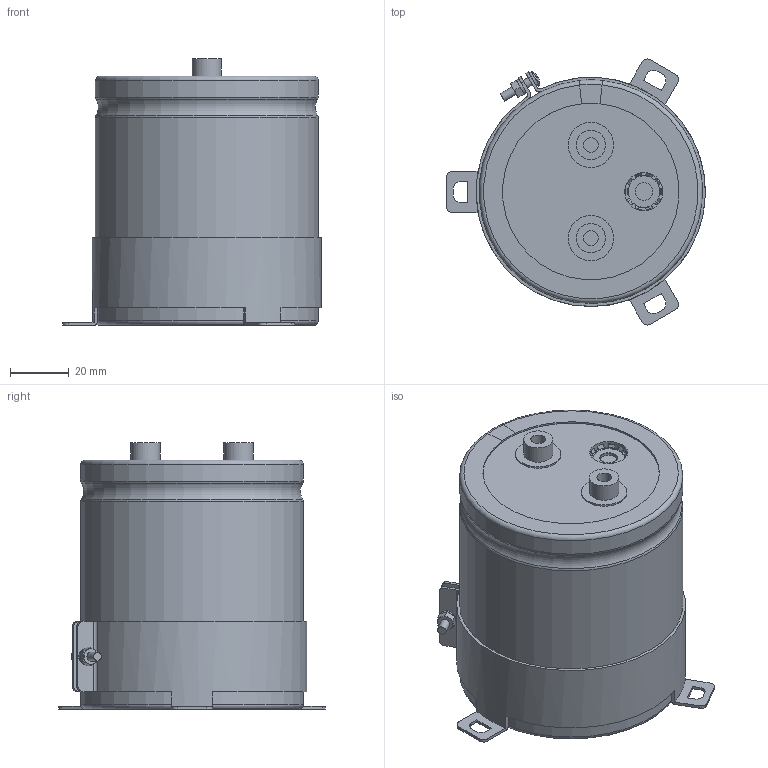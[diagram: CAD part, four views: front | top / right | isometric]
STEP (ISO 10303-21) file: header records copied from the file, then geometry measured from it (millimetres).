
FILE_DESCRIPTION(/* description */ (''),/* implementation_level */ '2;1');
FILE_NAME(/* name */ '76.2x85_Screw.stp',/* time_stamp */ '2017-09-17T13:17:28+09:00',/* author */ (''),/* organization */ (''),/* preprocessor_version */ 'ST-DEVELOPER v16',/* originating_system */ 'SIEMENS PLM Software NX 11.0',/* authorisation */ '');
FILE_SCHEMA (('AUTOMOTIVE_DESIGN { 1 0 10303 214 3 1 1 1 }'));
Length unit declared in the file: millimetre
Products named in the file (1): 76.2x85_Screw
Bounding box: 88.3 x 90.75 x 91 mm (x, y, z)
Volume: 390017.8 mm3; surface area: 91307.7 mm2
Topology: 9 solids, 9 shells, 259 faces, 642 edges, 413 vertices
Faces by surface type: plane 112, cylinder 66, torus 49, cone 31, sphere 1
Full cylindrical faces by diameter (mm): 3 x5, 5 x2, 5.5 x2, 6 x4, 8 x1, 10 x2, 13 x2, 15.5 x2, 75 x2
Entity records: 8534 total; most frequent: CARTESIAN_POINT 2182, DIRECTION 1296, ORIENTED_EDGE 1214, EDGE_CURVE 607, AXIS2_PLACEMENT_3D 541, VERTEX_POINT 408, EDGE_LOOP 317, CIRCLE 281
